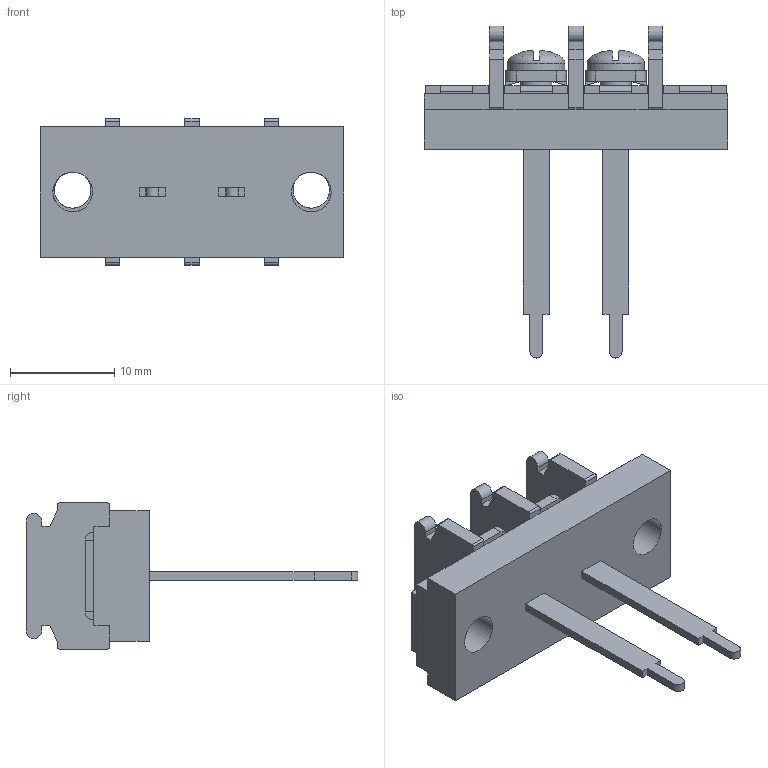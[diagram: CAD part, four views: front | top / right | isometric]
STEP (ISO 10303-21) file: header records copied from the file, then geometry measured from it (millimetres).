
FILE_DESCRIPTION(/* description */ ('Alibre Inc.'),/* implementation_level */ '2;1');
FILE_NAME(/* name */ 'export0',/* time_stamp */ '2015-10-26T16:24:17+09:00',/* author */ (''),/* organization */ (''),/* preprocessor_version */ 'ST-DEVELOPER v14',/* originating_system */ 'Alibre',/* authorisation */ '');
FILE_SCHEMA (('CONFIG_CONTROL_DESIGN'));
Length unit declared in the file: centimetre
Products named in the file (1): ID_1
Bounding box: 29.06 x 31.8 x 14 mm (x, y, z)
Volume: 2411.1 mm3; surface area: 2532.1 mm2
Topology: 1 solids, 17 shells, 684 faces, 1824 edges, 1204 vertices
Faces by surface type: plane 520, bspline 104, cylinder 44, cone 8, torus 4, sphere 4
Full cylindrical faces by diameter (mm): 3 x2, 3.5 x2, 3.8 x2, 5.5 x2
Entity records: 20329 total; most frequent: CARTESIAN_POINT 4671, ORIENTED_EDGE 3608, DIRECTION 2288, EDGE_CURVE 1804, VECTOR 1380, LINE 1380, VERTEX_POINT 1196, EDGE_LOOP 738
